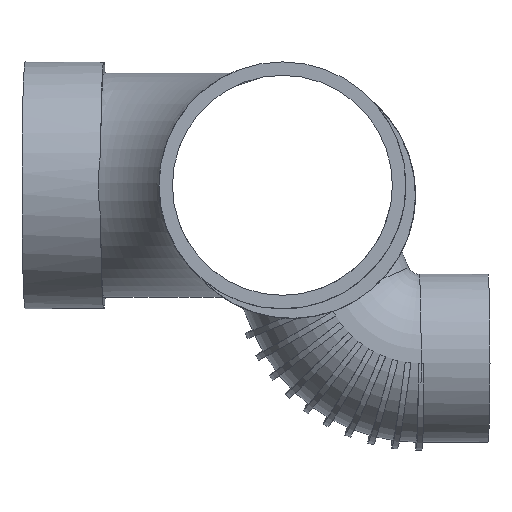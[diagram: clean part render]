
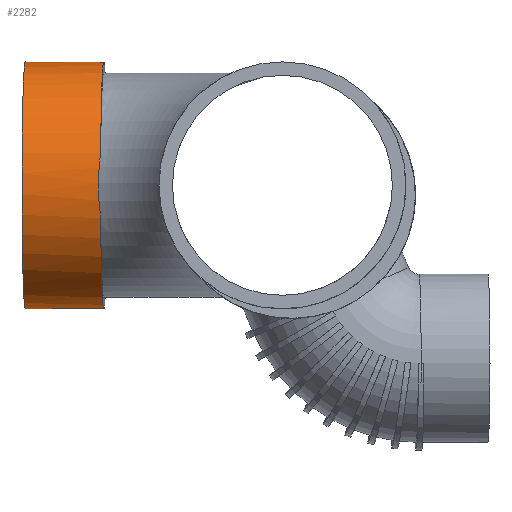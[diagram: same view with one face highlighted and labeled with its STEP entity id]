
A CAD part, front view. The second image highlights one B-rep face of the part: STEP entity #2282.
In plain terms, the highlighted cylindrical face has radius 55 mm (diameter 110 mm), a full revolution.
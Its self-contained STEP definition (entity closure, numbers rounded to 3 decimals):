
#305=FACE_OUTER_BOUND($,#664,.T.);
#461=CIRCLE($,#2548,55.);
#462=CIRCLE($,#2550,55.);
#543=FACE_BOUND($,#665,.T.);
#664=EDGE_LOOP($,(#1778,#1779));
#665=EDGE_LOOP($,(#1780));
#810=B_SPLINE_CURVE_WITH_KNOTS($,3,(#4323,#4324,#4325,#4326,#4327,#4328,
#4329,#4330),.UNSPECIFIED.,.F.,.F.,(4,2,2,4),(1.466,1.972,
3.918,4.425),.UNSPECIFIED.);
#954=VERTEX_POINT($,#4321);
#955=VERTEX_POINT($,#4322);
#962=VERTEX_POINT($,#4417);
#1235=EDGE_CURVE($,#954,#955,#810,.T.);
#1245=EDGE_CURVE($,#955,#954,#461,.T.);
#1246=EDGE_CURVE($,#962,#962,#462,.T.);
#1778=ORIENTED_EDGE($,*,*,#1235,.T.);
#1779=ORIENTED_EDGE($,*,*,#1245,.T.);
#1780=ORIENTED_EDGE($,*,*,#1246,.F.);
#2023=CYLINDRICAL_SURFACE($,#2551,55.);
#2282=ADVANCED_FACE($,(#305,#543),#2023,.T.);
#2548=AXIS2_PLACEMENT_3D($,#4415,#3094,#3095);
#2550=AXIS2_PLACEMENT_3D($,#4418,#3098,#3099);
#2551=AXIS2_PLACEMENT_3D($,#4419,#3100,#3101);
#3094=DIRECTION('center_axis',(-1.,0.026,0.));
#3095=DIRECTION('ref_axis',(-0.026,-1.,0.));
#3098=DIRECTION('center_axis',(-1.,0.026,0.));
#3099=DIRECTION('ref_axis',(-0.026,-1.,0.));
#3100=DIRECTION('center_axis',(1.,-0.026,0.));
#3101=DIRECTION('ref_axis',(-0.026,-1.,0.));
#4321=CARTESIAN_POINT('',(-80.96,84.076,-14.602));
#4322=CARTESIAN_POINT('',(-80.96,84.076,14.602));
#4323=CARTESIAN_POINT('Ctrl Pts',(-80.96,84.076,-14.602));
#4324=CARTESIAN_POINT('Ctrl Pts',(-81.185,83.638,-12.99));
#4325=CARTESIAN_POINT('Ctrl Pts',(-81.371,83.27,-11.351));
#4326=CARTESIAN_POINT('Ctrl Pts',(-82.083,81.847,-3.299));
#4327=CARTESIAN_POINT('Ctrl Pts',(-82.083,81.846,3.281));
#4328=CARTESIAN_POINT('Ctrl Pts',(-81.372,83.267,11.339));
#4329=CARTESIAN_POINT('Ctrl Pts',(-81.186,83.636,12.985));
#4330=CARTESIAN_POINT('Ctrl Pts',(-80.96,84.076,14.602));
#4415=CARTESIAN_POINT('Origin',(-79.572,137.084,0.));
#4417=CARTESIAN_POINT('',(-113.121,192.981,0.));
#4418=CARTESIAN_POINT('Origin',(-114.56,138.,0.));
#4419=CARTESIAN_POINT('Origin',(-114.56,138.,0.));
